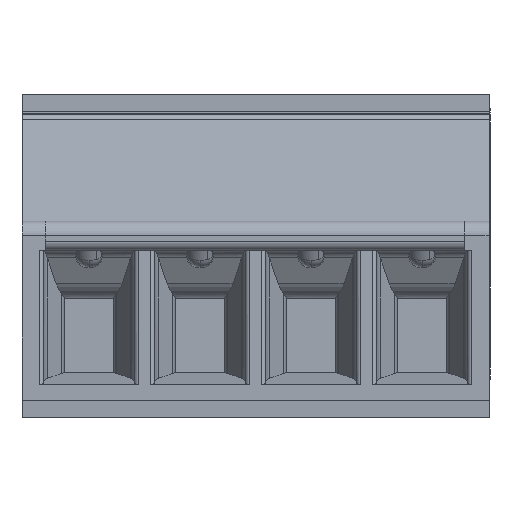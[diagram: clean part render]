
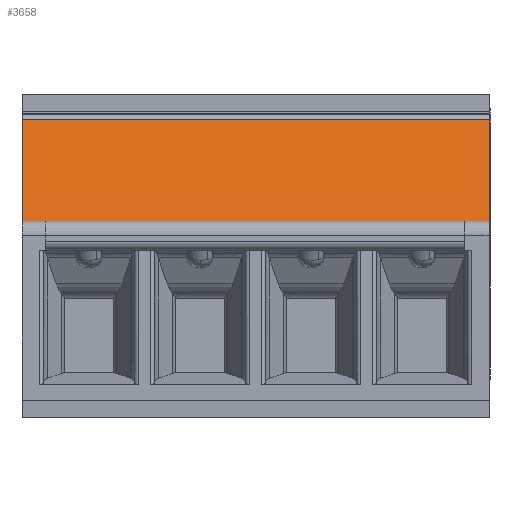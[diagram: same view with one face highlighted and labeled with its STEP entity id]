
A CAD part, front view. The second image highlights one B-rep face of the part: STEP entity #3658.
In plain terms, the highlighted planar face has unit normal (0, -0.966, 0.259).
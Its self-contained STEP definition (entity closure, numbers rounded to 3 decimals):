
#3658=ADVANCED_FACE('',(#6843),#6844,.F.);
#6843=FACE_OUTER_BOUND('',#10381,.T.);
#6844=PLANE('',#10382);
#10381=EDGE_LOOP('',(#17694,#17695,#17696,#17697));
#10382=AXIS2_PLACEMENT_3D('',#17698,#17699,#17700);
#17694=ORIENTED_EDGE('',*,*,#20630,.F.);
#17695=ORIENTED_EDGE('',*,*,#19048,.T.);
#17696=ORIENTED_EDGE('',*,*,#20668,.T.);
#17697=ORIENTED_EDGE('',*,*,#20669,.T.);
#17698=CARTESIAN_POINT('',(21.824,0.57,6.75));
#17699=DIRECTION('',(0.,0.966,-0.259));
#17700=DIRECTION('',(0.,0.259,0.966));
#19048=EDGE_CURVE('',#22250,#22248,#22251,.T.);
#20630=EDGE_CURVE('',#22250,#24468,#24469,.T.);
#20668=EDGE_CURVE('',#22248,#24515,#24516,.T.);
#20669=EDGE_CURVE('',#24515,#24468,#24517,.T.);
#22248=VERTEX_POINT('',#27545);
#22250=VERTEX_POINT('',#27547);
#22251=LINE('',#27548,#27549);
#24468=VERTEX_POINT('',#32109);
#24469=LINE('',#32110,#32111);
#24515=VERTEX_POINT('',#32175);
#24516=LINE('',#32176,#32177);
#24517=LINE('',#32178,#32179);
#27545=CARTESIAN_POINT('',(16.03,1.508,10.251));
#27547=CARTESIAN_POINT('',(16.03,0.57,6.75));
#27548=CARTESIAN_POINT('',(16.03,-1.064,0.65));
#27549=VECTOR('',#33464,1.0);
#32109=CARTESIAN_POINT('',(0.,0.57,6.75));
#32110=CARTESIAN_POINT('',(19.84,0.57,6.75));
#32111=VECTOR('',#35037,1.0);
#32175=CARTESIAN_POINT('',(0.,1.508,10.251));
#32176=CARTESIAN_POINT('',(18.014,1.508,10.251));
#32177=VECTOR('',#35074,1.0);
#32178=CARTESIAN_POINT('',(0.,-18.882,-65.844));
#32179=VECTOR('',#35075,1.0);
#33464=DIRECTION('',(0.,0.259,0.966));
#35037=DIRECTION('',(-1.0,0.,0.));
#35074=DIRECTION('',(-1.0,0.,0.));
#35075=DIRECTION('',(0.,-0.259,-0.966));
